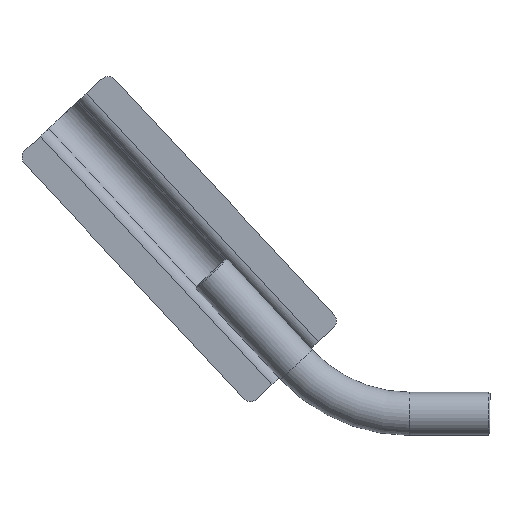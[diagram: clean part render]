
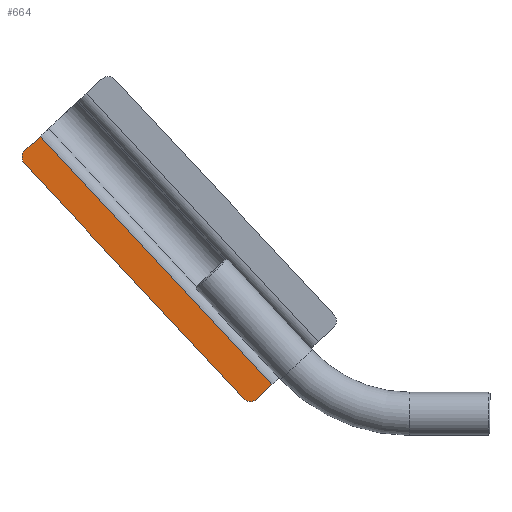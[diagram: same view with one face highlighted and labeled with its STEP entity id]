
A CAD part, left-side view. The second image highlights one B-rep face of the part: STEP entity #664.
In plain terms, the highlighted planar face has unit normal (-1, 0, 0).
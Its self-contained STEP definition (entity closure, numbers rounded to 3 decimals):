
#31=PLANE('',#750);
#57=FACE_OUTER_BOUND('',#96,.T.);
#96=EDGE_LOOP('',(#504,#505,#506,#507,#508,#509));
#131=LINE('',#1144,#176);
#134=LINE('',#1150,#179);
#135=LINE('',#1152,#180);
#136=LINE('',#1154,#181);
#176=VECTOR('',#898,10.);
#179=VECTOR('',#903,10.);
#180=VECTOR('',#904,10.);
#181=VECTOR('',#905,10.);
#233=CIRCLE('',#748,3.);
#234=CIRCLE('',#751,3.);
#284=VERTEX_POINT('',#1137);
#285=VERTEX_POINT('',#1139);
#286=VERTEX_POINT('',#1143);
#288=VERTEX_POINT('',#1149);
#289=VERTEX_POINT('',#1151);
#290=VERTEX_POINT('',#1153);
#361=EDGE_CURVE('',#284,#285,#233,.T.);
#363=EDGE_CURVE('',#285,#286,#131,.T.);
#366=EDGE_CURVE('',#288,#284,#134,.T.);
#367=EDGE_CURVE('',#288,#289,#135,.T.);
#368=EDGE_CURVE('',#290,#289,#136,.T.);
#369=EDGE_CURVE('',#286,#290,#234,.T.);
#504=ORIENTED_EDGE('',*,*,#361,.F.);
#505=ORIENTED_EDGE('',*,*,#366,.F.);
#506=ORIENTED_EDGE('',*,*,#367,.T.);
#507=ORIENTED_EDGE('',*,*,#368,.F.);
#508=ORIENTED_EDGE('',*,*,#369,.F.);
#509=ORIENTED_EDGE('',*,*,#363,.F.);
#664=ADVANCED_FACE('',(#57),#31,.T.);
#748=AXIS2_PLACEMENT_3D('',#1140,#893,#894);
#750=AXIS2_PLACEMENT_3D('',#1148,#901,#902);
#751=AXIS2_PLACEMENT_3D('',#1155,#906,#907);
#893=DIRECTION('center_axis',(1.,0.,0.));
#894=DIRECTION('ref_axis',(0.,0.035,-0.999));
#898=DIRECTION('',(0.,0.682,0.731));
#901=DIRECTION('center_axis',(-1.,0.,0.));
#902=DIRECTION('ref_axis',(0.,-0.731,0.682));
#903=DIRECTION('',(0.,0.731,-0.682));
#904=DIRECTION('',(0.,0.682,0.731));
#905=DIRECTION('',(0.,-0.731,0.682));
#906=DIRECTION('center_axis',(1.,0.,0.));
#907=DIRECTION('ref_axis',(0.,0.999,0.035));
#1137=CARTESIAN_POINT('',(0.,60.54,4.761));
#1139=CARTESIAN_POINT('',(0.,64.78,4.909));
#1140=CARTESIAN_POINT('Origin',(0.,62.586,
6.955));
#1143=CARTESIAN_POINT('',(0.,135.708,80.969));
#1144=CARTESIAN_POINT('',(0.,62.734,2.715));
#1148=CARTESIAN_POINT('Origin',(0.,62.734,
2.715));
#1149=CARTESIAN_POINT('',(0.,55.601,9.366));
#1150=CARTESIAN_POINT('',(0.,55.601,9.366));
#1151=CARTESIAN_POINT('',(0.,130.621,89.815));
#1152=CARTESIAN_POINT('',(0.,55.601,9.366));
#1153=CARTESIAN_POINT('',(0.,135.56,85.209));
#1154=CARTESIAN_POINT('',(0.,130.621,89.815));
#1155=CARTESIAN_POINT('Origin',(0.,133.514,
83.015));
